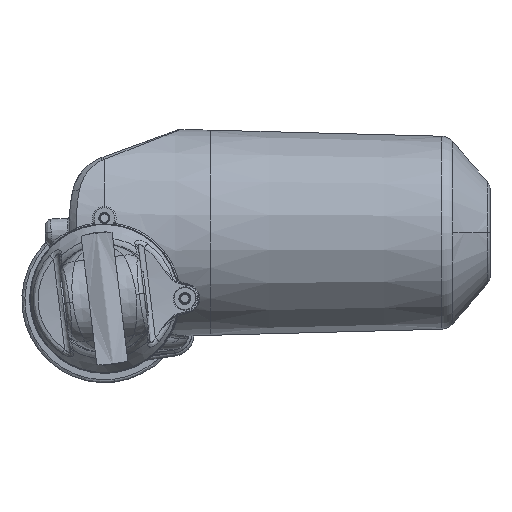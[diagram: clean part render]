
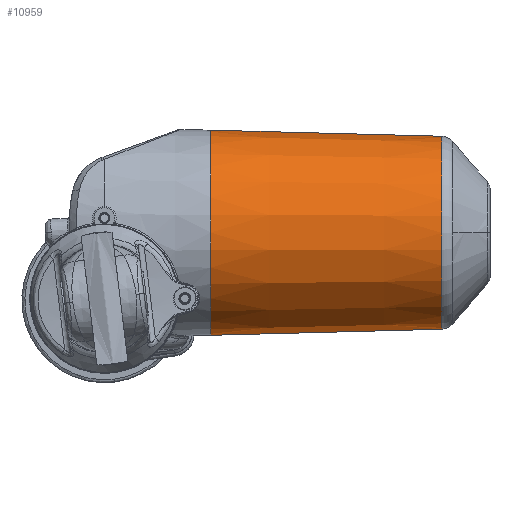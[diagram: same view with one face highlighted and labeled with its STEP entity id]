
A CAD part, top view. The second image highlights one B-rep face of the part: STEP entity #10959.
In plain terms, the highlighted conical face has half-angle 1.5 degrees and reference radius 33.407 mm.
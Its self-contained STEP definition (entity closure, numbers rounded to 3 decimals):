
#1137=CARTESIAN_POINT('',(35.7,22.15,-22.25));
#1138=DIRECTION('',(1.,0.,0.));
#1139=DIRECTION('',(0.,1.,0.));
#1140=AXIS2_PLACEMENT_3D('',#1137,#1138,#1139);
#1167=DIRECTION('',(-1.,-0.026,0.));
#1168=VECTOR('',#1167,77.532);
#1169=CARTESIAN_POINT('',(113.205,-10.242,-22.25));
#1170=LINE('',#1169,#1168);
#1171=CARTESIAN_POINT('',(113.205,22.15,-22.25));
#1172=DIRECTION('',(-1.,0.,0.));
#1173=DIRECTION('',(0.,-1.,0.));
#1174=AXIS2_PLACEMENT_3D('',#1171,#1172,#1173);
#1176=CARTESIAN_POINT('',(113.205,22.15,-22.25));
#1177=DIRECTION('',(-1.,0.,0.));
#1178=DIRECTION('',(0.,-0.003,1.));
#1179=AXIS2_PLACEMENT_3D('',#1176,#1177,#1178);
#1196=DIRECTION('',(-1.,0.026,0.));
#1197=VECTOR('',#1196,77.532);
#1198=CARTESIAN_POINT('',(113.205,54.542,-22.25));
#1199=LINE('',#1198,#1197);
#8951=CARTESIAN_POINT('',(113.205,54.542,-22.25));
#8953=VERTEX_POINT('',#8951);
#8957=CARTESIAN_POINT('',(35.7,56.571,-22.25));
#8958=VERTEX_POINT('',#8957);
#8959=CARTESIAN_POINT('',(35.7,-12.271,-22.25));
#8960=VERTEX_POINT('',#8959);
#8961=CARTESIAN_POINT('',(113.205,-10.242,-22.25));
#8962=VERTEX_POINT('',#8961);
#8963=CARTESIAN_POINT('',(113.205,22.047,10.142));
#8964=VERTEX_POINT('',#8963);
#10943=CARTESIAN_POINT('',(74.453,22.15,-22.25));
#10944=DIRECTION('',(-1.,0.,0.));
#10945=DIRECTION('',(0.,-1.,0.));
#10946=AXIS2_PLACEMENT_3D('',#10943,#10944,#10945);
#10947=CONICAL_SURFACE('',#10946,33.407,1.5);
#10949=ORIENTED_EDGE('',*,*,#10948,.F.);
#10951=ORIENTED_EDGE('',*,*,#10950,.F.);
#10953=ORIENTED_EDGE('',*,*,#10952,.T.);
#10954=ORIENTED_EDGE('',*,*,#10928,.F.);
#10956=ORIENTED_EDGE('',*,*,#10955,.F.);
#10957=EDGE_LOOP('',(#10949,#10951,#10953,#10954,#10956));
#10958=FACE_OUTER_BOUND('',#10957,.F.);
#1141=CIRCLE('',#1140,34.421);
#1175=CIRCLE('',#1174,32.392);
#1180=CIRCLE('',#1179,32.392);
#10928=EDGE_CURVE('',#8958,#8960,#1141,.T.);
#10948=EDGE_CURVE('',#8964,#8953,#1180,.T.);
#10950=EDGE_CURVE('',#8962,#8964,#1175,.T.);
#10952=EDGE_CURVE('',#8962,#8960,#1170,.T.);
#10955=EDGE_CURVE('',#8953,#8958,#1199,.T.);
#10959=ADVANCED_FACE('',(#10958),#10947,.T.);
